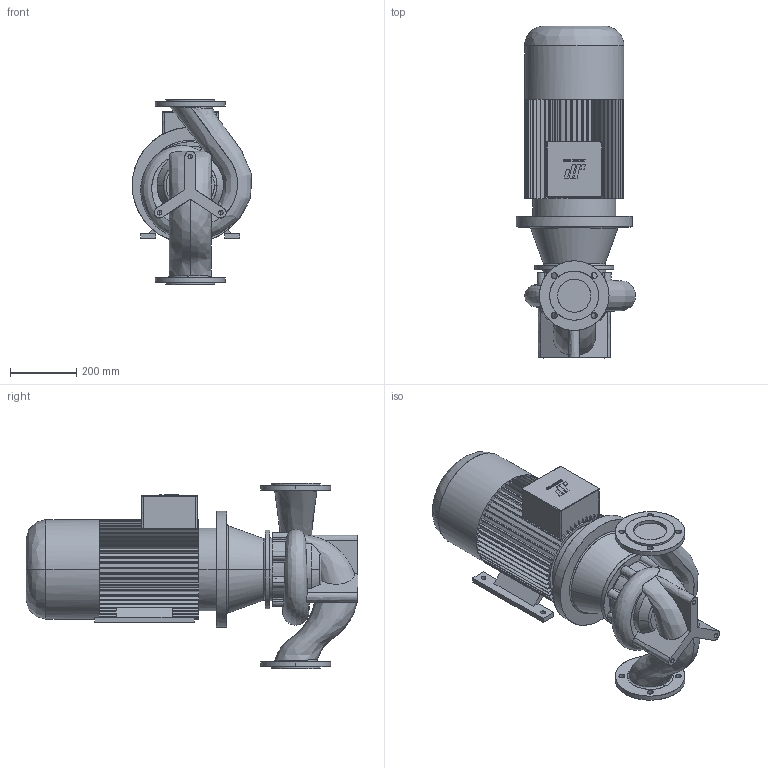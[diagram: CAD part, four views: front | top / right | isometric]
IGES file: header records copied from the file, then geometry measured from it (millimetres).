
Start section: CombiLine
Global section: file name: CLB_100-160_IEC160L.igs; native system:  By UGS Corp.; preprocessor: XPlus GENERIC/IGES 3.0; author: Stageplaats; organization: Johnson Pump Water B.V.; date: 20070716.085153; units: millimetre
Bounding box: 360.64 x 1001 x 560 mm (x, y, z)
Surface area: 2024251.7 mm2 (no closed solid volume)
Topology: 0 solids, 0 shells, 581 faces, 3533 edges, 3527 vertices
Faces by surface type: bspline 581
